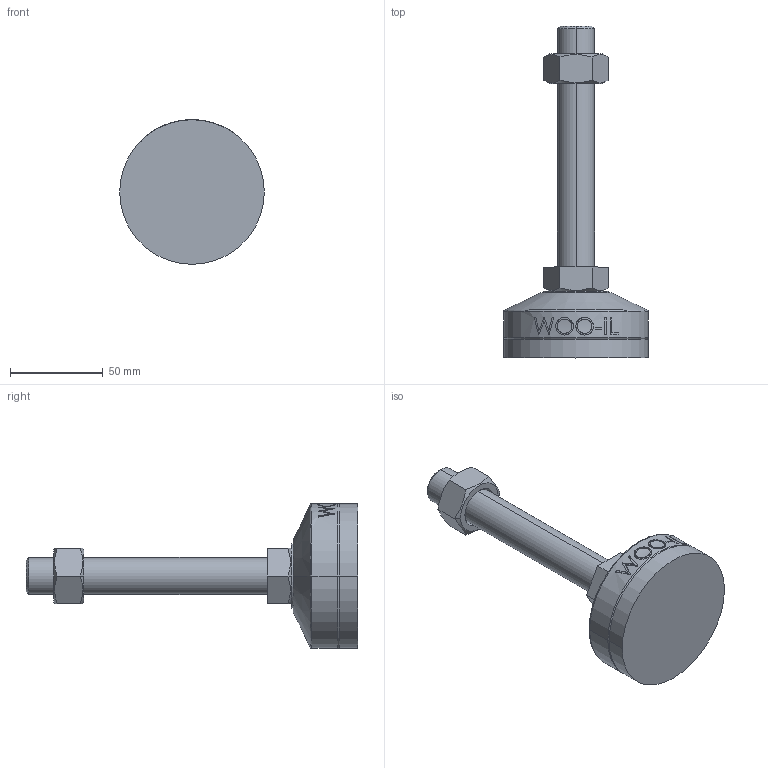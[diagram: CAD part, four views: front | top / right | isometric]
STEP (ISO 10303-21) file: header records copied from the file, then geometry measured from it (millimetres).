
FILE_DESCRIPTION (( 'STEP AP214' ), '1' );
FILE_NAME ('MFZR78-M20-130.step', '2021-03-29T06:58:28', ( '' ), ( '' ), 'SwSTEP 2.0', 'SolidWorks 2019', '' );
FILE_SCHEMA (( 'AUTOMOTIVE_DESIGN' ));
Length unit declared in the file: millimetre
Products named in the file (2): MFZR78-M20-130
Bounding box: 78 x 179 x 78 mm (x, y, z)
Volume: 207277.6 mm3; surface area: 31052.2 mm2
Topology: 3 solids, 3 shells, 102 faces, 235 edges, 150 vertices
Faces by surface type: plane 48, cylinder 18, bspline 16, cone 14, torus 6
Entity records: 4492 total; most frequent: CARTESIAN_POINT 2237, ORIENTED_EDGE 470, DIRECTION 415, EDGE_CURVE 235, AXIS2_PLACEMENT_3D 158, VERTEX_POINT 150, EDGE_LOOP 115, FACE_OUTER_BOUND 102
